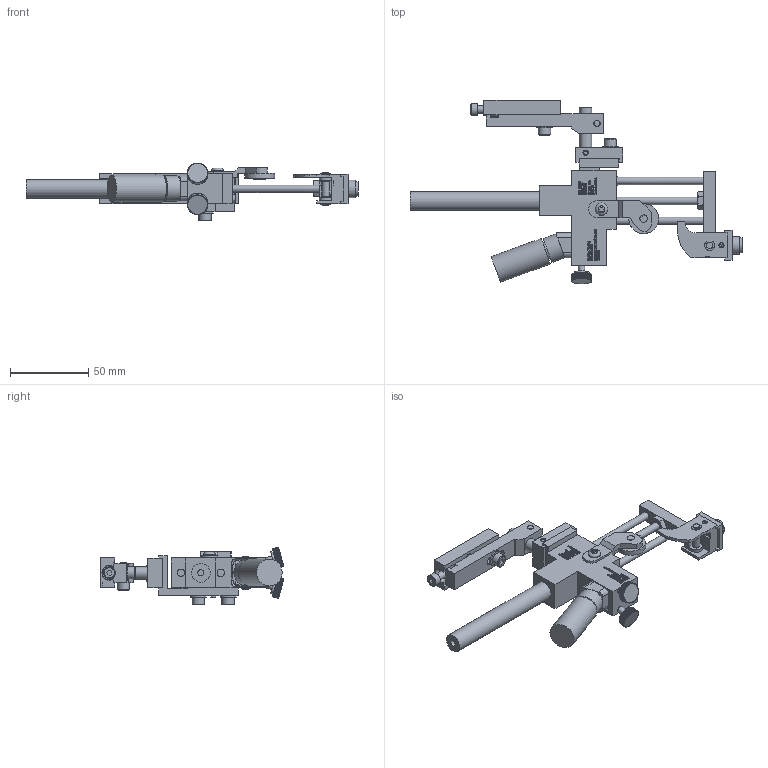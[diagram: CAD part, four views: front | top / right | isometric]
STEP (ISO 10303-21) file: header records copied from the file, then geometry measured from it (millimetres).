
FILE_DESCRIPTION((''),'2;1');
FILE_NAME('C:\Documents and Settings\Ron\My Documents\Inventor\Sprinter Drawing\Machines in Inventor\Model 44\Dot\3-eight\Std\Brkt\Ext\Model 44 STD .375 Dia Dot Ext w brkt.stp','2009-01-14T14:18:56',('Ron'),(''),'Autodesk Inventor 2008','Autodesk Inventor 2008','');
FILE_SCHEMA(('AUTOMOTIVE_DESIGN { 1 0 10303 214 1 1 1 1 }'));
Length unit declared in the file: inch
Products named in the file (1): Model 44 STD .375 Dia Dot Ext w brkt
Bounding box: 211.93 x 117.12 x 36.82 mm (x, y, z)
Volume: 104777.7 mm3; surface area: 51718.6 mm2
Topology: 28 solids, 28 shells, 6194 faces, 15377 edges, 9505 vertices
Faces by surface type: plane 4349, bspline 1320, cylinder 471, cone 48, torus 6
Full cylindrical faces by diameter (mm): 3.175 x4, 3.302 x1, 3.962 x1, 4.064 x7, 4.166 x1, 4.699 x1, 4.75 x4, 4.775 x1, 4.826 x7, 5.144 x1, 5.156 x5, 5.207 x2, 5.41 x2, 6.096 x1, 6.274 x2, 7.239 x1, 7.62 x1, 7.925 x7, 7.938 x1, 8.128 x1, 9.017 x1, 9.525 x3, 10.312 x4, 10.922 x1, 11.036 x1, 11.303 x1, 11.938 x2, 12.522 x1, 14.478 x1, 16.256 x1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
Entity records: 197206 total; most frequent: CARTESIAN_POINT 54039, ORIENTED_EDGE 30296, DIRECTION 23514, EDGE_CURVE 15148, VECTOR 11386, LINE 11386, VERTEX_POINT 9436, EDGE_LOOP 6754
